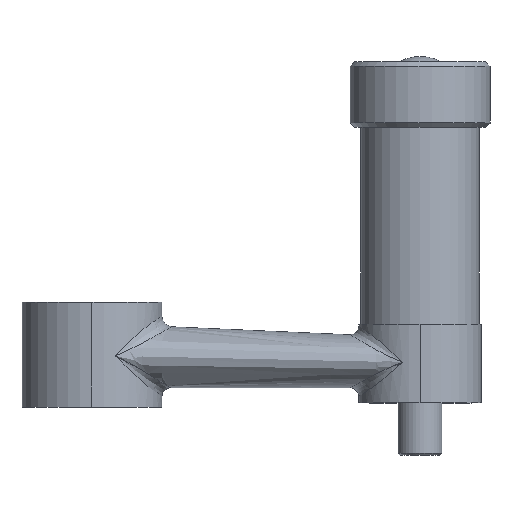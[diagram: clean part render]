
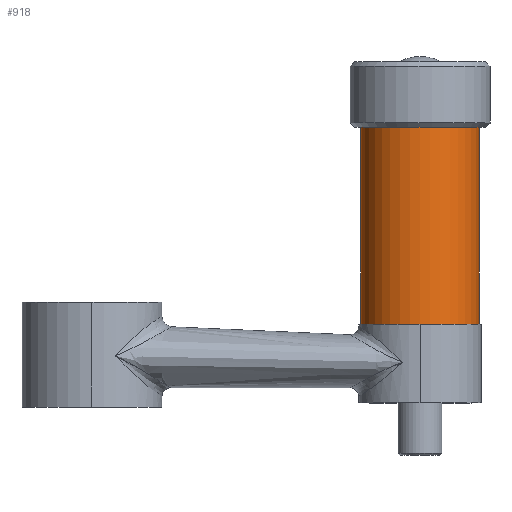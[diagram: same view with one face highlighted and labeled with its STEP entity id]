
A CAD part, top view. The second image highlights one B-rep face of the part: STEP entity #918.
In plain terms, the highlighted cylindrical face has radius 13.5 mm (diameter 27 mm), a partial arc.
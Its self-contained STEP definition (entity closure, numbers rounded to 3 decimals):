
#352 = LINE ( 'NONE', #2530, #2714 ) ;
#367 = CARTESIAN_POINT ( 'NONE',  ( 61.5, 21., 0. ) ) ;
#410 = ORIENTED_EDGE ( 'NONE', *, *, #1435, .T. ) ;
#722 = AXIS2_PLACEMENT_3D ( 'NONE', #1140, #3534, #765 ) ;
#755 = ORIENTED_EDGE ( 'NONE', *, *, #2413, .F. ) ;
#765 = DIRECTION ( 'NONE',  ( 0., 0., -1. ) ) ;
#918 = ADVANCED_FACE ( 'NONE', ( #1799 ), #1156, .T. ) ;
#1064 = DIRECTION ( 'NONE',  ( -1., 0., 0. ) ) ;
#1140 = CARTESIAN_POINT ( 'NONE',  ( 75., 21., 0. ) ) ;
#1156 = CYLINDRICAL_SURFACE ( 'NONE', #2381, 13.5 ) ;
#1306 = EDGE_CURVE ( 'NONE', #3915, #1676, #1684, .T. ) ;
#1367 = CIRCLE ( 'NONE', #2661, 13.5 ) ;
#1428 = CARTESIAN_POINT ( 'NONE',  ( 75., 66., 0. ) ) ;
#1435 = EDGE_CURVE ( 'NONE', #2344, #1718, #352, .T. ) ;
#1505 = DIRECTION ( 'NONE',  ( 0., 1., 0. ) ) ;
#1537 = DIRECTION ( 'NONE',  ( 0., 1., 0. ) ) ;
#1624 = DIRECTION ( 'NONE',  ( -1., 0., 0. ) ) ;
#1676 = VERTEX_POINT ( 'NONE', #3857 ) ;
#1684 = LINE ( 'NONE', #2601, #2777 ) ;
#1718 = VERTEX_POINT ( 'NONE', #2989 ) ;
#1799 = FACE_OUTER_BOUND ( 'NONE', #2284, .T. ) ;
#1803 = CIRCLE ( 'NONE', #722, 13.5 ) ;
#1814 = ORIENTED_EDGE ( 'NONE', *, *, #2986, .F. ) ;
#2284 = EDGE_LOOP ( 'NONE', ( #1814, #410, #755, #2642 ) ) ;
#2344 = VERTEX_POINT ( 'NONE', #3909 ) ;
#2381 = AXIS2_PLACEMENT_3D ( 'NONE', #2410, #1505, #1624 ) ;
#2410 = CARTESIAN_POINT ( 'NONE',  ( 75., 82.2, 0. ) ) ;
#2413 = EDGE_CURVE ( 'NONE', #1676, #1718, #1367, .T. ) ;
#2530 = CARTESIAN_POINT ( 'NONE',  ( 88.5, 82.2, 0. ) ) ;
#2601 = CARTESIAN_POINT ( 'NONE',  ( 61.5, 82.2, 0. ) ) ;
#2642 = ORIENTED_EDGE ( 'NONE', *, *, #1306, .F. ) ;
#2661 = AXIS2_PLACEMENT_3D ( 'NONE', #1428, #3845, #1064 ) ;
#2714 = VECTOR ( 'NONE', #1537, 1000. ) ;
#2777 = VECTOR ( 'NONE', #3864, 1000. ) ;
#2986 = EDGE_CURVE ( 'NONE', #2344, #3915, #1803, .T. ) ;
#2989 = CARTESIAN_POINT ( 'NONE',  ( 88.5, 66., 0. ) ) ;
#3534 = DIRECTION ( 'NONE',  ( 0., -1., 0. ) ) ;
#3845 = DIRECTION ( 'NONE',  ( 0., 1., 0. ) ) ;
#3857 = CARTESIAN_POINT ( 'NONE',  ( 61.5, 66., 0. ) ) ;
#3864 = DIRECTION ( 'NONE',  ( 0., 1., 0. ) ) ;
#3909 = CARTESIAN_POINT ( 'NONE',  ( 88.5, 21., 0. ) ) ;
#3915 = VERTEX_POINT ( 'NONE', #367 ) ;
